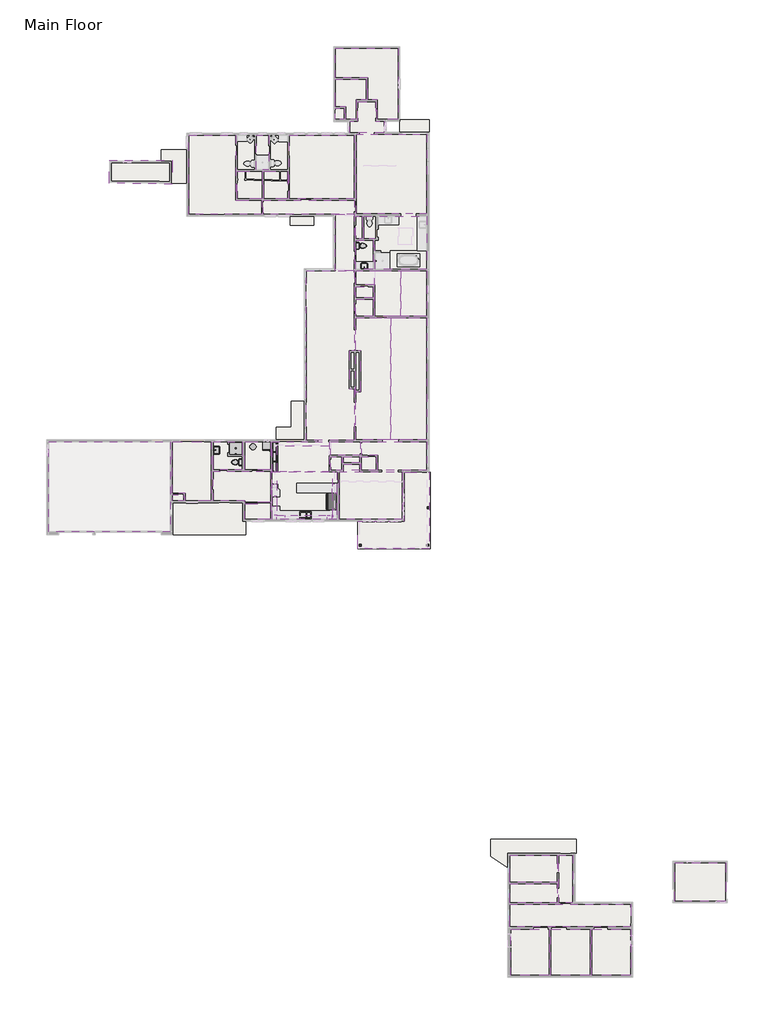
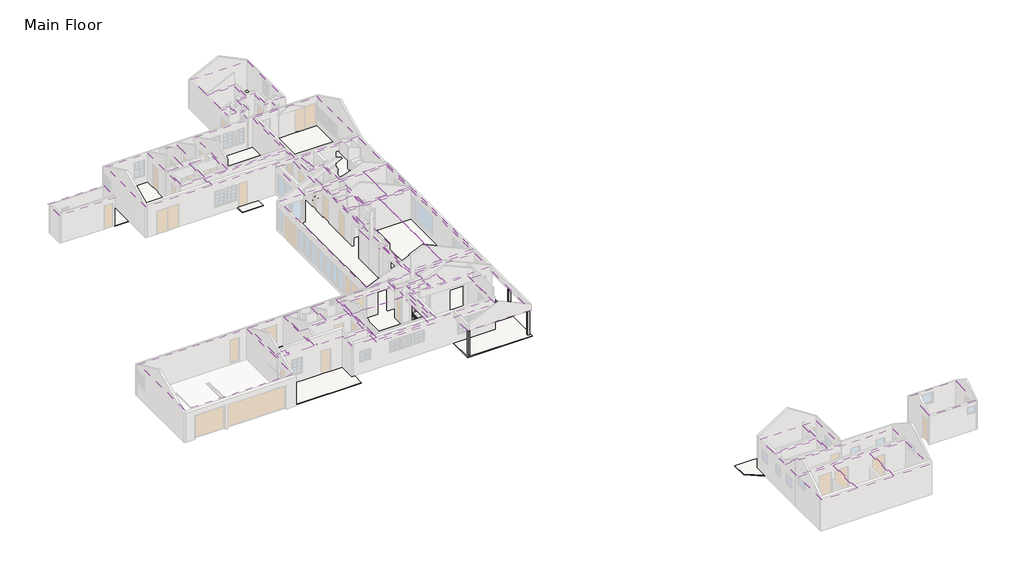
# One storey, part 6 of 7: 50 coverings, 13 slabs, 9 furniture elements, 8 flow terminals, 3 columns, 2 proxies, 1 roof.
"""IFC4 building model written with IfcOpenShell, lengths in millimetres."""

from ifc_helpers import new_model, si_unit, frame, origin, origin_with_axes, place, context, project, spatial, polyline, outline, extrude, faceted_brep, transform, mapped, element, save
from components import fridge_default_1_30e53153, wine_default_1_0e301ea7, bath_shower_basin_rectangular_default_1_36745686, bath_basin_do_not_use_500_x_440mm_e3a0a4a9, bath_basin_floor_default_1_27cbf9b9, default_1_8c387ca1, default_1_a9700879, toilet_default_1_5cb52bd4, toilet_default_1_183bbd19, furniture_839b1c73, furniture_a81f2656, furniture_4516e806, furniture_61d967b8, furniture_a372f8cd, furniture_c219662e, furniture_252459a3, furniture_43d7f59e

model = new_model("IFC4")

# Units and contexts
model_context = context("Model", 3, world=origin())
ifc_project = project(units=[si_unit("LENGTHUNIT", "METRE", prefix="MILLI")], contexts=[model_context])

# Site, building, storey
site = spatial("IfcSite", under=ifc_project)
building = spatial("IfcBuilding", under=site)
storey = spatial("IfcBuildingStorey", under=building, Name="Main Floor", Elevation=0.0)

# Proxies
placement = place(None, origin())
fridge_default_1_shape = fridge_default_1_30e53153(model_context)
element("IfcBuildingElementProxy", 1, Name="Fridge : Default 1", ObjectType="Fridge : Default 1", at=placement, inside=storey, context=model_context, shape_type="MappedRepresentation", body=[
    mapped(fridge_default_1_shape, transform((9748.6343008, -7890.2247068, 0.0), x_axis=(0.0, -1.0, 0.0), y_axis=(1.0, 0.0, 0.0), z_axis=(0.0, 0.0, 1.0))),
])
wine_default_1_shape = wine_default_1_0e301ea7(model_context)
element("IfcBuildingElementProxy", 2, Name="Wine : Default 1", ObjectType="Wine : Default 1", at=placement, inside=storey, context=model_context, shape_type="MappedRepresentation", body=[
    mapped(wine_default_1_shape, transform((4459.1343008, -3499.4247068, 0.0), x_axis=(1.0, 0.0, 0.0), y_axis=(0.0, 1.0, 0.0), z_axis=(0.0, 0.0, 1.0))),
])

# Columns
element("IfcColumn", 3, ObjectType="Rectangular Column : Default 1", at=placement, inside=storey, context=model_context, shape_type="SweptSolid", body=[
    extrude(outline(polyline([(11467.9093008, -11059.0997068), (11467.9093008, -11205.1497068), (11321.8593008, -11205.1497068), (11321.8593008, -11059.0997068), (11467.9093008, -11059.0997068)])), origin_with_axes(), (0.0, 0.0, 1.0), 2286.0),
])
element("IfcColumn", 4, ObjectType="Rectangular Column : Default 1", at=placement, inside=storey, context=model_context, shape_type="SweptSolid", body=[
    extrude(outline(polyline([(16446.3093008, -11046.3997068), (16446.3093008, -11192.4497068), (16300.2593008, -11192.4497068), (16300.2593008, -11046.3997068), (16446.3093008, -11046.3997068)])), origin_with_axes(), (0.0, 0.0, 1.0), 2286.0),
])
element("IfcColumn", 5, ObjectType="Rectangular Column : Default 1", at=placement, inside=storey, context=model_context, shape_type="SweptSolid", body=[
    extrude(outline(polyline([(16478.0268008, -8271.2084568), (16478.0268008, -8417.2584568), (16331.9768008, -8417.2584568), (16331.9768008, -8271.2084568), (16478.0268008, -8271.2084568)])), origin_with_axes(), (0.0, 0.0, 1.0), 2286.0),
])

# Coverings
element("IfcCovering", 6, ObjectType="2\"\" Open Ceiling", at=placement, inside=storey, context=model_context, shape_type="SweptSolid", body=[
    extrude(outline(polyline([(16316.1343008, 9187.8752932), (16316.1343008, 5803.3252932), (12442.6343008, 5803.3252932), (12442.6343008, 8127.4252932), (11051.9843008, 8127.4252932), (11051.9843008, 9187.8752932), (16316.1343008, 9187.8752932)])), frame((0.0, 0.0, 2565.4), z_axis=(0.0, 0.0, 1.0), x_axis=(1.0, 0.0, 0.0)), (0.0, 0.0, 1.0), 12.7),
])
element("IfcCovering", 7, ObjectType="2\"\" Open Ceiling", at=placement, inside=storey, context=model_context, shape_type="SweptSolid", body=[
    extrude(outline(polyline([(16316.1343008, 5689.0252932), (16316.1343008, -3315.2747068), (11051.9843008, -3315.2747068), (11051.9843008, 5689.0252932), (16316.1343008, 5689.0252932)])), frame((0.0, 0.0, 2565.4), z_axis=(0.0, 0.0, 1.0), x_axis=(1.0, 0.0, 0.0)), (0.0, 0.0, 1.0), 12.7),
])
element("IfcCovering", 8, ObjectType="2\"\" Open Ceiling", at=placement, inside=storey, context=model_context, shape_type="SweptSolid", body=[
    extrude(outline(polyline([(-2651.3156992, -3480.3747068), (-2651.3156992, -10135.1747068), (-11636.5656992, -10135.1747068), (-11636.5656992, -3480.3747068), (-2651.3156992, -3480.3747068)])), frame((0.0, 0.0, 2565.4), z_axis=(0.0, 0.0, 1.0), x_axis=(1.0, 0.0, 0.0)), (0.0, 0.0, 1.0), 12.7),
])
element("IfcCovering", 9, ObjectType="2\"\" Open Ceiling", at=placement, inside=storey, context=model_context, shape_type="SweptSolid", body=[
    extrude(outline(polyline([(11204.3843008, -11367.0747068), (11204.3843008, -9354.1247068), (14633.3843008, -9354.1247068), (14633.3843008, -5709.2247068), (16468.5343008, -5709.2247068), (16468.5343008, -11367.0747068), (11204.3843008, -11367.0747068)])), frame((0.0, 0.0, 2286.0), z_axis=(0.0, 0.0, 1.0), x_axis=(1.0, 0.0, 0.0)), (0.0, 0.0, 1.0), 12.7),
])
element("IfcCovering", 10, ObjectType="2\"\" Open Ceiling", at=placement, inside=storey, context=model_context, shape_type="SweptSolid", body=[
    extrude(outline(polyline([(38407.712334, -34575.5881179), (38407.712334, -37426.7381179), (34629.462334, -37426.7381179), (34629.462334, -34575.5881179), (38407.712334, -34575.5881179)])), frame((0.0, 0.0, 2438.4), z_axis=(0.0, 0.0, 1.0), x_axis=(1.0, 0.0, 0.0)), (0.0, 0.0, 1.0), 12.7),
])
element("IfcCovering", 11, ObjectType="2\"\" Open Ceiling", at=placement, inside=storey, context=model_context, shape_type="SweptSolid", body=[
    extrude(outline(polyline([(25340.0877703, -42915.6175931), (22495.2877703, -42915.6175931), (22495.2877703, -39486.6175931), (25340.0877703, -39486.6175931), (25340.0877703, -42915.6175931)])), frame((0.0, 0.0, 2565.4), z_axis=(0.0, 0.0, 1.0), x_axis=(1.0, 0.0, 0.0)), (0.0, 0.0, 1.0), 12.7),
])
element("IfcCovering", 12, ObjectType="2\"\" Open Ceiling", at=placement, inside=storey, context=model_context, shape_type="SweptSolid", body=[
    extrude(outline(polyline([(28394.4377703, -42915.6175931), (25454.3877703, -42915.6175931), (25454.3877703, -39486.6175931), (28394.4377703, -39486.6175931), (28394.4377703, -42915.6175931)])), frame((0.0, 0.0, 2565.4), z_axis=(0.0, 0.0, 1.0), x_axis=(1.0, 0.0, 0.0)), (0.0, 0.0, 1.0), 12.7),
])
element("IfcCovering", 13, ObjectType="2\"\" Open Ceiling", at=placement, inside=storey, context=model_context, shape_type="SweptSolid", body=[
    extrude(outline(polyline([(31391.6377703, -42915.6175931), (28508.7377703, -42915.6175931), (28508.7377703, -39486.6175931), (31391.6377703, -39486.6175931), (31391.6377703, -42915.6175931)])), frame((0.0, 0.0, 2565.4), z_axis=(0.0, 0.0, 1.0), x_axis=(1.0, 0.0, 0.0)), (0.0, 0.0, 1.0), 12.7),
])
element("IfcCovering", 14, ObjectType="2\"\" Open Ceiling", at=placement, inside=storey, context=model_context, shape_type="SweptSolid", body=[
    extrude(outline(polyline([(31391.6377703, -39321.5175931), (22444.4877703, -39321.5175931), (22444.4877703, -37657.8175931), (31391.6377703, -37657.8175931), (31391.6377703, -39321.5175931)])), frame((0.0, 0.0, 2565.4), z_axis=(0.0, 0.0, 1.0), x_axis=(1.0, 0.0, 0.0)), (0.0, 0.0, 1.0), 12.7),
])
element("IfcCovering", 15, ObjectType="2\"\" Open Ceiling", at=placement, inside=storey, context=model_context, shape_type="SweptSolid", body=[
    extrude(outline(polyline([(25962.3877703, -37543.5175931), (22444.4877703, -37543.5175931), (22444.4877703, -36127.4675931), (25962.3877703, -36127.4675931), (25962.3877703, -37543.5175931)])), frame((0.0, 0.0, 2565.4), z_axis=(0.0, 0.0, 1.0), x_axis=(1.0, 0.0, 0.0)), (0.0, 0.0, 1.0), 12.7),
])
element("IfcCovering", 16, ObjectType="2\"\" Open Ceiling", at=placement, inside=storey, context=model_context, shape_type="SweptSolid", body=[
    extrude(outline(polyline([(25962.3877703, -36013.1675931), (22444.4877703, -36013.1675931), (22444.4877703, -34038.3175931), (25962.3877703, -34038.3175931), (25962.3877703, -36013.1675931)])), frame((0.0, 0.0, 2565.4), z_axis=(0.0, 0.0, 1.0), x_axis=(1.0, 0.0, 0.0)), (0.0, 0.0, 1.0), 12.7),
])
element("IfcCovering", 17, ObjectType="2\"\" Open Ceiling", at=placement, inside=storey, context=model_context, shape_type="SweptSolid", body=[
    extrude(outline(polyline([(27111.7377703, -37543.5175931), (26076.6877703, -37543.5175931), (26076.6877703, -34038.3175931), (27111.7377703, -34038.3175931), (27111.7377703, -37543.5175931)])), frame((0.0, 0.0, 2565.4), z_axis=(0.0, 0.0, 1.0), x_axis=(1.0, 0.0, 0.0)), (0.0, 0.0, 1.0), 12.7),
])
element("IfcCovering", 18, ObjectType="2\"\" Open Ceiling", at=placement, inside=storey, context=model_context, shape_type="Brep", body=[
    faceted_brep([(16316.1343008, 5803.3252932, 2756.9094656), (16316.1343008, 9187.8752932, 2756.9094656), (14379.3843008, 9187.8752932, 3544.3094656), (14379.3843008, 5803.3252932, 3544.3094656), (15900.9505193, 8456.7752932, 2925.7054948), (15900.9505193, 7542.3752932, 2925.7054948), (14859.6110471, 7542.3752932, 3349.0697392), (14859.6110471, 8456.7752932, 3349.0697392), (16316.1343008, 5803.3252932, 2743.2), (14379.3843008, 5803.3252932, 3530.6), (14379.3843008, 9187.8752932, 3530.6), (16316.1343008, 9187.8752932, 2743.2), (15900.9505193, 8456.7752932, 2911.9960292), (14859.6110471, 8456.7752932, 3335.3602736), (14859.6110471, 7542.3752932, 3335.3602736), (15900.9505193, 7542.3752932, 2911.9960292)], [[[0, 1, 2, 3], [4, 5, 6, 7]], [[8, 9, 10, 11], [12, 13, 14, 15]], [[1, 0, 8, 11]], [[2, 1, 11, 10]], [[3, 2, 10, 9]], [[0, 3, 9, 8]], [[5, 4, 12, 15]], [[6, 5, 15, 14]], [[7, 6, 14, 13]], [[4, 7, 13, 12]]]),
])
element("IfcCovering", 19, ObjectType="2\"\" Open Ceiling", at=placement, inside=storey, context=model_context, shape_type="SweptSolid", body=[
    extrude(outline(polyline([(2833.0605924, 16316.1343008), (3899.8605924, 13623.7343008), (3886.2, 13623.7343008), (2819.4, 16316.1343008), (2833.0605924, 16316.1343008)])), frame((0.0, -3315.2747068, 0.0), z_axis=(0.0, 1.0, 0.0), x_axis=(0.0, 0.0, 1.0)), (0.0, 0.0, 1.0), 9004.3),
])
element("IfcCovering", 20, ObjectType="2\"\" Open Ceiling", at=placement, inside=storey, context=model_context, shape_type="Brep", body=[
    faceted_brep([(13623.7343008, 5689.0252932, 3899.9970422), (11051.9843008, 5689.0252932, 2808.2163818), (11051.9843008, 3250.6252932, 2808.2163818), (11426.6343008, 3250.6252932, 2967.2659101), (11426.6343008, 247.0752932, 2967.2659101), (11051.9843008, 247.0752932, 2808.2163818), (11051.9843008, -3315.2747068, 2808.2163818), (13623.7343008, -3315.2747068, 3899.9970422), (13623.7343008, 5689.0252932, 3886.2), (13623.7343008, -3315.2747068, 3886.2), (11051.9843008, -3315.2747068, 2794.4193396), (11051.9843008, 247.0752932, 2794.4193396), (11426.6343008, 247.0752932, 2953.4688679), (11426.6343008, 3250.6252932, 2953.4688679), (11051.9843008, 3250.6252932, 2794.4193396), (11051.9843008, 5689.0252932, 2794.4193396)], [[[0, 1, 2, 3, 4, 5, 6, 7]], [[8, 9, 10, 11, 12, 13, 14, 15]], [[0, 7, 9, 8]], [[7, 6, 10, 9]], [[6, 5, 11, 10]], [[1, 0, 8, 15]], [[2, 1, 15, 14]], [[3, 2, 14, 13]], [[4, 3, 13, 12]], [[5, 4, 12, 11]]]),
])
element("IfcCovering", 21, ObjectType="2\"\" Open Ceiling", at=placement, inside=storey, context=model_context, shape_type="SweptSolid", body=[
    extrude(outline(polyline([(3544.3094656, 14379.3843008), (2756.9094656, 12442.6343008), (2743.2, 12442.6343008), (3530.6, 14379.3843008), (3544.3094656, 14379.3843008)])), frame((0.0, 5803.3252932, 0.0), z_axis=(0.0, 1.0, 0.0), x_axis=(0.0, 0.0, 1.0)), (0.0, 0.0, 1.0), 3384.55),
])
element("IfcCovering", 22, ObjectType="1/2\" Ceiling", at=placement, inside=storey, context=model_context, shape_type="SweptSolid", body=[
    extrude(outline(polyline([(-1298.7656992, 19214.5252932), (2187.3843008, 19214.5252932), (2187.3843008, 14401.2252932), (4098.7343008, 14401.2252932), (4098.7343008, 13359.8252932), (-1298.7656992, 13359.8252932), (-1298.7656992, 19214.5252932)])), frame((0.0, 0.0, 2565.4), z_axis=(0.0, 0.0, 1.0), x_axis=(1.0, 0.0, 0.0)), (0.0, 0.0, 1.0), 12.7),
])
element("IfcCovering", 23, ObjectType="1/2\" Ceiling", at=placement, inside=storey, context=model_context, shape_type="SweptSolid", body=[
    extrude(outline(polyline([(6149.7843008, 19214.5252932), (10937.6843008, 19214.5252932), (10937.6843008, 14515.5252932), (6149.7843008, 14515.5252932), (6149.7843008, 19214.5252932)])), frame((0.0, 0.0, 2565.4), z_axis=(0.0, 0.0, 1.0), x_axis=(1.0, 0.0, 0.0)), (0.0, 0.0, 1.0), 12.7),
])
element("IfcCovering", 24, ObjectType="1/2\" Ceiling", at=placement, inside=storey, context=model_context, shape_type="SweptSolid", body=[
    extrude(outline(polyline([(4130.4843008, 16528.4752932), (4130.4843008, 14515.5252932), (2301.6843008, 14515.5252932), (2301.6843008, 16528.4752932), (4130.4843008, 16528.4752932)])), frame((0.0, 0.0, 2565.4), z_axis=(0.0, 0.0, 1.0), x_axis=(1.0, 0.0, 0.0)), (0.0, 0.0, 1.0), 12.7),
])
element("IfcCovering", 25, ObjectType="1/2\" Ceiling", at=placement, inside=storey, context=model_context, shape_type="SweptSolid", body=[
    extrude(outline(polyline([(6035.4843008, 16528.4752932), (6035.4843008, 14515.5252932), (4244.7843008, 14515.5252932), (4244.7843008, 16528.4752932), (6035.4843008, 16528.4752932)])), frame((0.0, 0.0, 2565.4), z_axis=(0.0, 0.0, 1.0), x_axis=(1.0, 0.0, 0.0)), (0.0, 0.0, 1.0), 12.7),
])
element("IfcCovering", 26, ObjectType="1/2\" Ceiling", at=placement, inside=storey, context=model_context, shape_type="SweptSolid", body=[
    extrude(outline(polyline([(4632.1343008, 19214.5252932), (4632.1343008, 16642.7752932), (3685.9843008, 16642.7752932), (3685.9843008, 19214.5252932), (4632.1343008, 19214.5252932)])), frame((0.0, 0.0, 2438.4), z_axis=(0.0, 0.0, 1.0), x_axis=(1.0, 0.0, 0.0)), (0.0, 0.0, 1.0), 12.7),
])
element("IfcCovering", 27, ObjectType="1/2\" Ceiling", at=placement, inside=storey, context=model_context, shape_type="SweptSolid", body=[
    extrude(outline(polyline([(10937.6843008, 14401.2252932), (10937.6843008, 13359.8252932), (4213.0343008, 13359.8252932), (4213.0343008, 14401.2252932), (10937.6843008, 14401.2252932)])), frame((0.0, 0.0, 2565.4), z_axis=(0.0, 0.0, 1.0), x_axis=(1.0, 0.0, 0.0)), (0.0, 0.0, 1.0), 12.7),
])
element("IfcCovering", 28, ObjectType="1/2\" Ceiling", at=placement, inside=storey, context=model_context, shape_type="SweptSolid", body=[
    extrude(outline(polyline([(16316.1343008, 19252.6252932), (16316.1343008, 13378.8752932), (11102.7843008, 13378.8752932), (11102.7843008, 19252.6252932), (16316.1343008, 19252.6252932)])), frame((0.0, 0.0, 2565.4), z_axis=(0.0, 0.0, 1.0), x_axis=(1.0, 0.0, 0.0)), (0.0, 0.0, 1.0), 12.7),
])
element("IfcCovering", 29, ObjectType="1/2\" Ceiling", at=placement, inside=storey, context=model_context, shape_type="SweptSolid", body=[
    extrude(outline(polyline([(10601.1343008, 20249.5752932), (11210.7343008, 20249.5752932), (11210.7343008, 21691.0252932), (12531.5343008, 21691.0252932), (12531.5343008, 20249.5752932), (13141.1343008, 20249.5752932), (13141.1343008, 19366.9252932), (10601.1343008, 19366.9252932), (10601.1343008, 20249.5752932)])), frame((0.0, 0.0, 2565.4), z_axis=(0.0, 0.0, 1.0), x_axis=(1.0, 0.0, 0.0)), (0.0, 0.0, 1.0), 12.7),
])
element("IfcCovering", 30, ObjectType="1/2\" Ceiling", at=placement, inside=storey, context=model_context, shape_type="SweptSolid", body=[
    extrude(outline(polyline([(9534.3343008, 23348.3752932), (11813.9843008, 23348.3752932), (11813.9843008, 21805.3252932), (11096.4343008, 21805.3252932), (11096.4343008, 20363.8752932), (10302.6843008, 20363.8752932), (10302.6843008, 21310.0252932), (9534.3343008, 21310.0252932), (9534.3343008, 23348.3752932)])), frame((0.0, 0.0, 2565.4), z_axis=(0.0, 0.0, 1.0), x_axis=(1.0, 0.0, 0.0)), (0.0, 0.0, 1.0), 12.7),
])
element("IfcCovering", 31, ObjectType="1/2\" Ceiling", at=placement, inside=storey, context=model_context, shape_type="SweptSolid", body=[
    extrude(outline(polyline([(10188.3843008, 21195.7252932), (10188.3843008, 20363.8752932), (9534.3343008, 20363.8752932), (9534.3343008, 21195.7252932), (10188.3843008, 21195.7252932)])), frame((0.0, 0.0, 2565.4), z_axis=(0.0, 0.0, 1.0), x_axis=(1.0, 0.0, 0.0)), (0.0, 0.0, 1.0), 12.7),
])
element("IfcCovering", 32, ObjectType="1/2\" Ceiling", at=placement, inside=storey, context=model_context, shape_type="SweptSolid", body=[
    extrude(outline(polyline([(14201.5843008, 20363.8752932), (12645.8343008, 20363.8752932), (12645.8343008, 21805.3252932), (11928.2843008, 21805.3252932), (11928.2843008, 23462.6752932), (9534.3343008, 23462.6752932), (9534.3343008, 25640.7252932), (14201.5843008, 25640.7252932), (14201.5843008, 20363.8752932)])), frame((0.0, 0.0, 2565.4), z_axis=(0.0, 0.0, 1.0), x_axis=(1.0, 0.0, 0.0)), (0.0, 0.0, 1.0), 12.7),
])
element("IfcCovering", 33, ObjectType="1/2\" Ceiling", at=placement, inside=storey, context=model_context, shape_type="SweptSolid", body=[
    extrude(outline(polyline([(11534.5843008, 13213.7752932), (11534.5843008, 11562.7752932), (11051.9843008, 11562.7752932), (11051.9843008, 13213.7752932), (11534.5843008, 13213.7752932)])), frame((0.0, 0.0, 2565.4), z_axis=(0.0, 0.0, 1.0), x_axis=(1.0, 0.0, 0.0)), (0.0, 0.0, 1.0), 12.7),
])
element("IfcCovering", 34, ObjectType="1/2\" Ceiling", at=placement, inside=storey, context=model_context, shape_type="SweptSolid", body=[
    extrude(outline(polyline([(12328.3343008, 11448.4752932), (12328.3343008, 9302.1752932), (11051.9843008, 9302.1752932), (11051.9843008, 11448.4752932), (12328.3343008, 11448.4752932)])), frame((0.0, 0.0, 2565.4), z_axis=(0.0, 0.0, 1.0), x_axis=(1.0, 0.0, 0.0)), (0.0, 0.0, 1.0), 12.7),
])
element("IfcCovering", 35, ObjectType="1/2\" Ceiling", at=placement, inside=storey, context=model_context, shape_type="SweptSolid", body=[
    extrude(outline(polyline([(11648.8843008, 11562.7752932), (11648.8843008, 13213.7752932), (16316.1343008, 13213.7752932), (16316.1343008, 9302.1752932), (12493.4343008, 9302.1752932), (12493.4343008, 10673.7752932), (12442.6343008, 10673.7752932), (12442.6343008, 11562.7752932), (11648.8843008, 11562.7752932)]), holes=[polyline([(15204.7975461, 12324.7752932), (14243.1168228, 12324.7752932), (14243.1168228, 11156.3752932), (15204.7975461, 11156.3752932), (15204.7975461, 12324.7752932)])]), frame((0.0, 0.0, 2590.8), z_axis=(0.0, 0.0, 1.0), x_axis=(1.0, 0.0, 0.0)), (0.0, 0.0, 1.0), 12.7),
])
element("IfcCovering", 36, ObjectType="1/2\" Ceiling", at=placement, inside=storey, context=model_context, shape_type="SweptSolid", body=[
    extrude(outline(polyline([(12328.3343008, 7174.9252932), (11051.9843008, 7174.9252932), (11051.9843008, 8013.1252932), (12328.3343008, 8013.1252932), (12328.3343008, 7174.9252932)])), frame((0.0, 0.0, 2565.4), z_axis=(0.0, 0.0, 1.0), x_axis=(1.0, 0.0, 0.0)), (0.0, 0.0, 1.0), 12.7),
])
element("IfcCovering", 37, ObjectType="1/2\" Ceiling", at=placement, inside=storey, context=model_context, shape_type="SweptSolid", body=[
    extrude(outline(polyline([(12328.3343008, 7060.6252932), (12328.3343008, 5803.3252932), (11051.9843008, 5803.3252932), (11051.9843008, 7060.6252932), (12328.3343008, 7060.6252932)])), frame((0.0, 0.0, 2565.4), z_axis=(0.0, 0.0, 1.0), x_axis=(1.0, 0.0, 0.0)), (0.0, 0.0, 1.0), 12.7),
])
element("IfcCovering", 38, ObjectType="1/2\" Ceiling", at=placement, inside=storey, context=model_context, shape_type="SweptSolid", body=[
    extrude(outline(polyline([(11490.1343008, -3480.3747068), (16316.1343008, -3480.3747068), (16316.1343008, -5556.8247068), (12696.6343008, -5556.8247068), (12696.6343008, -4451.9247068), (11490.1343008, -4451.9247068), (11490.1343008, -3480.3747068)])), frame((0.0, 0.0, 2565.4), z_axis=(0.0, 0.0, 1.0), x_axis=(1.0, 0.0, 0.0)), (0.0, 0.0, 1.0), 12.7),
])
element("IfcCovering", 39, ObjectType="1/2\" Ceiling", at=placement, inside=storey, context=model_context, shape_type="SweptSolid", body=[
    extrude(outline(polyline([(11375.8343008, -4451.9247068), (9210.4843008, -4451.9247068), (9210.4843008, -3480.3747068), (11375.8343008, -3480.3747068), (11375.8343008, -4451.9247068)])), frame((0.0, 0.0, 2565.4), z_axis=(0.0, 0.0, 1.0), x_axis=(1.0, 0.0, 0.0)), (0.0, 0.0, 1.0), 12.7),
])
element("IfcCovering", 40, ObjectType="1/2\" Ceiling", at=placement, inside=storey, context=model_context, shape_type="SweptSolid", body=[
    extrude(outline(polyline([(10010.5843008, -5556.8247068), (9210.4843008, -5556.8247068), (9210.4843008, -4566.2247068), (10010.5843008, -4566.2247068), (10010.5843008, -5556.8247068)])), frame((0.0, 0.0, 2565.4), z_axis=(0.0, 0.0, 1.0), x_axis=(1.0, 0.0, 0.0)), (0.0, 0.0, 1.0), 12.7),
])
element("IfcCovering", 41, ObjectType="1/2\" Ceiling", at=placement, inside=storey, context=model_context, shape_type="SweptSolid", body=[
    extrude(outline(polyline([(11356.7843008, -5023.4247068), (10124.8843008, -5023.4247068), (10124.8843008, -4566.2247068), (11356.7843008, -4566.2247068), (11356.7843008, -5023.4247068)])), frame((0.0, 0.0, 2565.4), z_axis=(0.0, 0.0, 1.0), x_axis=(1.0, 0.0, 0.0)), (0.0, 0.0, 1.0), 12.7),
])
element("IfcCovering", 42, ObjectType="1/2\" Ceiling", at=placement, inside=storey, context=model_context, shape_type="SweptSolid", body=[
    extrude(outline(polyline([(11356.7843008, -5556.8247068), (10124.8843008, -5556.8247068), (10124.8843008, -5137.7247068), (11356.7843008, -5137.7247068), (11356.7843008, -5556.8247068)])), frame((0.0, 0.0, 2565.4), z_axis=(0.0, 0.0, 1.0), x_axis=(1.0, 0.0, 0.0)), (0.0, 0.0, 1.0), 12.7),
])
element("IfcCovering", 43, ObjectType="1/2\" Ceiling", at=placement, inside=storey, context=model_context, shape_type="SweptSolid", body=[
    extrude(outline(polyline([(12582.3343008, -5556.8247068), (11471.0843008, -5556.8247068), (11471.0843008, -4566.2247068), (12582.3343008, -4566.2247068), (12582.3343008, -5556.8247068)])), frame((0.0, 0.0, 2565.4), z_axis=(0.0, 0.0, 1.0), x_axis=(1.0, 0.0, 0.0)), (0.0, 0.0, 1.0), 12.7),
])
element("IfcCovering", 44, ObjectType="1/2\" Ceiling", at=placement, inside=storey, context=model_context, shape_type="SweptSolid", body=[
    extrude(outline(polyline([(14480.9843008, -9201.7247068), (9813.7343008, -9201.7247068), (9813.7343008, -5671.1247068), (14480.9843008, -5671.1247068), (14480.9843008, -9201.7247068)])), frame((0.0, 0.0, 2565.4), z_axis=(0.0, 0.0, 1.0), x_axis=(1.0, 0.0, 0.0)), (0.0, 0.0, 1.0), 12.7),
])
element("IfcCovering", 45, ObjectType="1/2\" Ceiling", at=placement, inside=storey, context=model_context, shape_type="SweptSolid", body=[
    extrude(outline(polyline([(4778.1843008, -5531.4247068), (2828.7343008, -5531.4247068), (2828.7343008, -3480.3747068), (4778.1843008, -3480.3747068), (4778.1843008, -5531.4247068)])), frame((0.0, 0.0, 2565.4), z_axis=(0.0, 0.0, 1.0), x_axis=(1.0, 0.0, 0.0)), (0.0, 0.0, 1.0), 12.7),
])
element("IfcCovering", 46, ObjectType="1/2\" Ceiling", at=placement, inside=storey, context=model_context, shape_type="SweptSolid", body=[
    extrude(outline(polyline([(4778.1843008, -8033.3247068), (4778.1843008, -9201.7247068), (2847.7843008, -9201.7247068), (2847.7843008, -8033.3247068), (4778.1843008, -8033.3247068)])), frame((0.0, 0.0, 2565.4), z_axis=(0.0, 0.0, 1.0), x_axis=(1.0, 0.0, 0.0)), (0.0, 0.0, 1.0), 12.7),
])
element("IfcCovering", 47, ObjectType="1/2\" Ceiling", at=placement, inside=storey, context=model_context, shape_type="SweptSolid", body=[
    extrude(outline(polyline([(498.2843008, -5645.7247068), (4778.1843008, -5645.7247068), (4778.1843008, -7919.0247068), (2847.7843008, -7919.0247068), (2847.7843008, -7823.7747068), (498.2843008, -7823.7747068), (498.2843008, -5645.7247068)])), frame((0.0, 0.0, 2565.4), z_axis=(0.0, 0.0, 1.0), x_axis=(1.0, 0.0, 0.0)), (0.0, 0.0, 1.0), 12.7),
])
element("IfcCovering", 48, ObjectType="1/2\" Ceiling", at=placement, inside=storey, context=model_context, shape_type="SweptSolid", body=[
    extrude(outline(polyline([(2663.6343008, -3480.3747068), (2663.6343008, -5531.4247068), (498.2843008, -5531.4247068), (498.2843008, -3480.3747068), (2663.6343008, -3480.3747068)])), frame((0.0, 0.0, 2565.4), z_axis=(0.0, 0.0, 1.0), x_axis=(1.0, 0.0, 0.0)), (0.0, 0.0, 1.0), 12.7),
])
element("IfcCovering", 49, ObjectType="1/2\" Ceiling", at=placement, inside=storey, context=model_context, shape_type="SweptSolid", body=[
    extrude(outline(polyline([(-1667.0656992, -7372.9247068), (-1667.0656992, -7823.7747068), (-2498.9156992, -7823.7747068), (-2498.9156992, -7372.9247068), (-1667.0656992, -7372.9247068)])), frame((0.0, 0.0, 2565.4), z_axis=(0.0, 0.0, 1.0), x_axis=(1.0, 0.0, 0.0)), (0.0, 0.0, 1.0), 12.7),
])
element("IfcCovering", 50, ObjectType="1/2\" Ceiling", at=placement, inside=storey, context=model_context, shape_type="SweptSolid", body=[
    extrude(outline(polyline([(-2498.9156992, -3480.3747068), (383.9843008, -3480.3747068), (383.9843008, -7823.7747068), (-1552.7656992, -7823.7747068), (-1552.7656992, -7258.6247068), (-2498.9156992, -7258.6247068), (-2498.9156992, -3480.3747068)])), frame((0.0, 0.0, 2565.4), z_axis=(0.0, 0.0, 1.0), x_axis=(1.0, 0.0, 0.0)), (0.0, 0.0, 1.0), 12.7),
])
element("IfcCovering", 51, ObjectType="1/2\" Ceiling", at=placement, inside=storey, context=model_context, shape_type="SweptSolid", body=[
    extrude(outline(polyline([(5197.2843008, -8896.9247068), (9343.8343008, -8896.9247068), (9343.8343008, -5671.1247068), (9648.6343008, -5671.1247068), (9648.6343008, -9201.7247068), (4892.4843008, -9201.7247068), (4892.4843008, -3480.3747068), (9096.1843008, -3480.3747068), (9096.1843008, -3785.1747068), (5197.2843008, -3785.1747068), (5197.2843008, -8896.9247068)])), frame((0.0, 0.0, 2184.4), z_axis=(0.0, 0.0, 1.0), x_axis=(1.0, 0.0, 0.0)), (0.0, 0.0, 1.0), 12.7),
])
element("IfcCovering", 52, ObjectType="1/2\" Ceiling", at=placement, inside=storey, context=model_context, shape_type="SweptSolid", body=[
    extrude(outline(polyline([(10937.6843008, 13359.8252932), (10937.6843008, 9187.8752932), (9547.0343008, 9187.8752932), (9547.0343008, 13359.8252932), (10937.6843008, 13359.8252932)])), frame((0.0, 0.0, 2311.4), z_axis=(0.0, 0.0, 1.0), x_axis=(1.0, 0.0, 0.0)), (0.0, 0.0, 1.0), 12.7),
])
element("IfcCovering", 53, ObjectType="1/2\" Ceiling", at=placement, inside=storey, context=model_context, shape_type="SweptSolid", body=[
    extrude(outline(polyline([(10937.6843008, 9187.8752932), (10937.6843008, 3250.6252932), (10575.7343008, 3250.6252932), (10575.7343008, 469.3252932), (10937.6843008, 469.3252932), (10937.6843008, -3366.0747068), (7394.3843008, -3366.0747068), (7394.3843008, 9187.8752932), (10937.6843008, 9187.8752932)])), frame((0.0, 0.0, 2565.4), z_axis=(0.0, 0.0, 1.0), x_axis=(1.0, 0.0, 0.0)), (0.0, 0.0, 1.0), 12.7),
])
element("IfcCovering", 54, ObjectType="1/2\" Ceiling", at=placement, inside=storey, context=model_context, shape_type="SweptSolid", body=[
    extrude(outline(polyline([(9096.1843008, -3480.3747068), (9096.1843008, -5671.1247068), (4892.4843008, -5671.1247068), (4892.4843008, -3480.3747068), (9096.1843008, -3480.3747068)])), frame((0.0, 0.0, 2565.4), z_axis=(0.0, 0.0, 1.0), x_axis=(1.0, 0.0, 0.0)), (0.0, 0.0, 1.0), 12.7),
])
element("IfcCovering", 55, ObjectType="1/2\" Ceiling", at=placement, inside=storey, context=model_context, shape_type="SweptSolid", body=[
    extrude(outline(polyline([(9648.6343008, -5671.1247068), (9648.6343008, -9201.7247068), (4892.4843008, -9201.7247068), (4892.4843008, -5671.1247068), (9648.6343008, -5671.1247068)])), frame((0.0, 0.0, 2565.4), z_axis=(0.0, 0.0, 1.0), x_axis=(1.0, 0.0, 0.0)), (0.0, 0.0, 1.0), 12.7),
])

# Flow terminals
bath_shower_basin_rectangular_default_1_shape = bath_shower_basin_rectangular_default_1_36745686(model_context)
element("IfcFlowTerminal", 56, ObjectType="Bath- Shower - Basin Rectangular : Default 1", at=placement, inside=storey, context=model_context, shape_type="MappedRepresentation", body=[
    mapped(bath_shower_basin_rectangular_default_1_shape, transform((2181.0343008, -3943.9247068, 0.0), x_axis=(1.0, 0.0, 0.0), y_axis=(0.0, 1.0, 0.0), z_axis=(0.0, 0.0, 1.0))),
])
bath_basin_do_not_use_500_x_440mm_shape = bath_basin_do_not_use_500_x_440mm_e3a0a4a9(model_context)
element("IfcFlowTerminal", 57, ObjectType="Bath-Basin DO NOT USE : 500 x 440mm", at=placement, inside=storey, context=model_context, shape_type="MappedRepresentation", body=[
    mapped(bath_basin_do_not_use_500_x_440mm_shape, transform((11692.3235412, 9482.3206943, 152.4), x_axis=(-1.0, 0.0, 0.0), y_axis=(0.0, -1.0, 0.0), z_axis=(0.0, 0.0, 1.0))),
])
bath_basin_floor_default_1_shape = bath_basin_floor_default_1_27cbf9b9(model_context)
element("IfcFlowTerminal", 58, ObjectType="Bath-Basin Floor : Default 1", at=placement, inside=storey, context=model_context, shape_type="MappedRepresentation", body=[
    mapped(bath_basin_floor_default_1_shape, transform((678.4297019, -4099.3139474, 0.0), x_axis=(0.0, 1.0, 0.0), y_axis=(-1.0, 0.0, 0.0), z_axis=(0.0, 0.0, 1.0))),
])
default_1_shape = default_1_8c387ca1(model_context)
element("IfcFlowTerminal", 59, ObjectType="2D Kitcken-Sink Double Half : Default 1", at=placement, inside=storey, context=model_context, shape_type="MappedRepresentation", body=[
    mapped(default_1_shape, transform((7403.1550602, -8919.9793057, 152.4), x_axis=(1.0, 0.0, 0.0), y_axis=(0.0, 1.0, 0.0), z_axis=(0.0, 0.0, 1.0))),
])
default_1_2_shape = default_1_a9700879(model_context)
element("IfcFlowTerminal", 60, ObjectType="Bath-Showerhead : Default 1", at=placement, inside=storey, context=model_context, shape_type="MappedRepresentation", body=[
    mapped(default_1_2_shape, transform((12493.4343008, 9905.4252932, 0.0), x_axis=(0.0, 1.0, 0.0), y_axis=(-1.0, 0.0, 0.0), z_axis=(0.0, 0.0, 1.0))),
])
element("IfcFlowTerminal", 61, ObjectType="Bath-Showerhead : Default 1", at=placement, inside=storey, context=model_context, shape_type="MappedRepresentation", body=[
    mapped(default_1_2_shape, transform((2181.0343008, -4407.4747068, 0.0), x_axis=(-1.0, 0.0, 0.0), y_axis=(0.0, -1.0, 0.0), z_axis=(0.0, 0.0, 1.0))),
])
toilet_default_1_shape = toilet_default_1_5cb52bd4(model_context)
toilet_default_1_2_shape = toilet_default_1_183bbd19(model_context)
element("IfcFlowTerminal", 62, ObjectType="Toilet : Default 1", at=placement, inside=storey, context=model_context, shape_type="MappedRepresentation", body=[
    mapped(toilet_default_1_shape, transform((2169.2882734, -4978.9247068, 0.0), x_axis=(0.0, -1.0, 0.0), y_axis=(1.0, 0.0, 0.0), z_axis=(0.0, 0.0, 1.0))),
    mapped(toilet_default_1_2_shape, transform((2169.2882734, -4978.9247068, 0.0), x_axis=(0.0, -1.0, 0.0), y_axis=(1.0, 0.0, 0.0), z_axis=(0.0, 0.0, 1.0))),
])
element("IfcFlowTerminal", 63, ObjectType="Toilet : Default 1", at=placement, inside=storey, context=model_context, shape_type="MappedRepresentation", body=[
    mapped(toilet_default_1_shape, transform((11546.3803281, 11019.6752932, 0.0), x_axis=(0.0, 1.0, 0.0), y_axis=(-1.0, 0.0, 0.0), z_axis=(0.0, 0.0, 1.0))),
    mapped(toilet_default_1_2_shape, transform((11546.3803281, 11019.6752932, 0.0), x_axis=(0.0, 1.0, 0.0), y_axis=(-1.0, 0.0, 0.0), z_axis=(0.0, 0.0, 1.0))),
])

# Furniture
furniture_shape = furniture_839b1c73(model_context)
element("IfcFurniture", 64, ObjectType="Upper Cabinet-Single Door-Wall : 15\"", at=placement, inside=storey, context=model_context, shape_type="MappedRepresentation", body=[
    mapped(furniture_shape, transform((9085.463138, -9277.9247068, 50.8), x_axis=(1.0, 0.0, 0.0), y_axis=(0.0, 1.0, 0.0), z_axis=(0.0, 0.0, 1.0))),
])
furniture_2_shape = furniture_a81f2656(model_context)
element("IfcFurniture", 65, ObjectType="Upper Cabinet-Single Door-Wall : 24\"", at=placement, inside=storey, context=model_context, shape_type="MappedRepresentation", body=[
    mapped(furniture_2_shape, transform((4835.3343008, -7241.553544, 50.8), x_axis=(0.0, -1.0, 0.0), y_axis=(1.0, 0.0, 0.0), z_axis=(0.0, 0.0, 1.0))),
])
furniture_3_shape = furniture_4516e806(model_context)
element("IfcFurniture", 66, ObjectType="Upper Cabinet-Single Door-Wall : 24\"", at=placement, inside=storey, context=model_context, shape_type="MappedRepresentation", body=[
    mapped(furniture_3_shape, transform((4835.3343008, -8638.553544, 50.8), x_axis=(0.0, -1.0, 0.0), y_axis=(1.0, 0.0, 0.0), z_axis=(0.0, 0.0, 1.0))),
])
furniture_4_shape = furniture_61d967b8(model_context)
element("IfcFurniture", 67, ObjectType="Upper Cabinet-Single Door-Wall : 24\"", at=placement, inside=storey, context=model_context, shape_type="MappedRepresentation", body=[
    mapped(furniture_4_shape, transform((5548.513138, -9277.9247068, 50.8), x_axis=(1.0, 0.0, 0.0), y_axis=(0.0, 1.0, 0.0), z_axis=(0.0, 0.0, 1.0))),
])
furniture_5_shape = furniture_a372f8cd(model_context)
element("IfcFurniture", 68, ObjectType="Upper Cabinet-Single Door-Wall : 24\"", at=placement, inside=storey, context=model_context, shape_type="MappedRepresentation", body=[
    mapped(furniture_5_shape, transform((9731.1843008, -8758.1958696, 50.8), x_axis=(0.0, 1.0, 0.0), y_axis=(-1.0, 0.0, 0.0), z_axis=(0.0, 0.0, 1.0))),
])
furniture_6_shape = furniture_c219662e(model_context)
element("IfcFurniture", 69, ObjectType="Upper Cabinet-Single Door-Wall : 24\"", at=placement, inside=storey, context=model_context, shape_type="MappedRepresentation", body=[
    mapped(furniture_6_shape, transform((9731.1843008, -6827.7958696, 50.8), x_axis=(0.0, 1.0, 0.0), y_axis=(-1.0, 0.0, 0.0), z_axis=(0.0, 0.0, 1.0))),
])
furniture_7_shape = furniture_252459a3(model_context)
element("IfcFurniture", 70, ObjectType="Upper Cabinet-Single Door-Wall : 24\"", at=placement, inside=storey, context=model_context, shape_type="MappedRepresentation", body=[
    mapped(furniture_7_shape, transform((4835.3343008, -5400.053544, 50.8), x_axis=(0.0, -1.0, 0.0), y_axis=(1.0, 0.0, 0.0), z_axis=(0.0, 0.0, 1.0))),
])
element("IfcFurniture", 71, ObjectType="Upper Cabinet-Single Door-Wall : 24\"", at=placement, inside=storey, context=model_context, shape_type="MappedRepresentation", body=[
    mapped(furniture_7_shape, transform((4835.3343008, -4676.153544, 50.8), x_axis=(0.0, -1.0, 0.0), y_axis=(1.0, 0.0, 0.0), z_axis=(0.0, 0.0, 1.0))),
])
furniture_8_shape = furniture_43d7f59e(model_context)
element("IfcFurniture", 72, ObjectType="Upper Cabinet-Single Door-Wall : 24\"", at=placement, inside=storey, context=model_context, shape_type="MappedRepresentation", body=[
    mapped(furniture_8_shape, transform((4835.3343008, -3952.253544, 50.8), x_axis=(0.0, -1.0, 0.0), y_axis=(1.0, 0.0, 0.0), z_axis=(0.0, 0.0, 1.0))),
])

# Roof
element("IfcRoof", 73, ObjectType="Planitar Roof - 5\"", at=placement, inside=storey, context=model_context, shape_type="Brep", body=[
    faceted_brep([(-2530.6656992, 17347.6252932, 2616.6851194), (-2530.6656992, 15572.4119003, 2771.9961666), (-2530.6656992, 15572.4119003, 2644.5110472), (-2530.6656992, 17347.6252932, 2489.2), (-7172.5156992, 15653.4356935, 2764.9075032), (-7172.5156992, 15653.4356935, 2637.4223838), (-7172.5156992, 17347.6252932, 2616.6851194), (-7172.5156992, 17347.6252932, 2489.2)], [[[0, 1, 2, 3]], [[1, 4, 5, 2]], [[4, 6, 7, 5]], [[3, 2, 5, 7]], [[1, 0, 6, 4]], [[7, 6, 0, 3]]]),
])

# Slabs
element("IfcSlab", 74, ObjectType="Ledge - 2\"", at=placement, inside=storey, context=model_context, shape_type="SweptSolid", body=[
    extrude(outline(polyline([(2847.7843008, -7823.7747068), (-2498.9156992, -7823.7747068), (-2498.9156992, -3480.3747068), (7394.3843008, -3480.3747068), (7394.3843008, 9187.8752932), (9547.0343008, 9187.8752932), (9547.0343008, 13359.8252932), (-1298.7656992, 13359.8252932), (-1298.7656992, 19214.5252932), (10601.1343008, 19214.5252932), (10601.1343008, 20363.8752932), (9534.3343008, 20363.8752932), (9534.3343008, 25640.7252932), (14201.5843008, 25640.7252932), (14201.5843008, 20363.8752932), (13141.1343008, 20363.8752932), (13141.1343008, 19252.6252932), (16316.1343008, 19252.6252932), (16316.1343008, -5556.8247068), (14480.9843008, -5556.8247068), (14480.9843008, -9201.7247068), (2847.7843008, -9201.7247068), (2847.7843008, -7823.7747068)])), frame((0.0, 0.0, -50.8), z_axis=(0.0, 0.0, 1.0), x_axis=(1.0, 0.0, 0.0)), (0.0, 0.0, 1.0), 50.8),
])
element("IfcSlab", 75, ObjectType="Ledge - 2\"", at=placement, inside=storey, context=model_context, shape_type="SweptSolid", body=[
    extrude(outline(polyline([(-2695.7656992, 17157.1252932), (-2695.7656992, 15765.82275), (-7007.4156992, 15841.0828807), (-7007.4156992, 17157.1252932), (-2695.7656992, 17157.1252932)])), frame((0.0, 0.0, -50.8), z_axis=(0.0, 0.0, 1.0), x_axis=(1.0, 0.0, 0.0)), (0.0, 0.0, 1.0), 50.8),
])
element("IfcSlab", 76, ObjectType="Ledge - 2\"", at=placement, inside=storey, context=model_context, shape_type="SweptSolid", body=[
    extrude(outline(polyline([(-3343.4656992, 18135.0252932), (-1451.1656992, 18135.0252932), (-1451.1656992, 15649.5109563), (-2581.507591, 15649.5109563), (-2581.507591, 17271.4252932), (-3343.4656992, 17271.4252932), (-3343.4656992, 18135.0252932)])), frame((0.0, 0.0, -50.8), z_axis=(0.0, 0.0, 1.0), x_axis=(1.0, 0.0, 0.0)), (0.0, 0.0, 1.0), 50.8),
])
element("IfcSlab", 77, ObjectType="Ledge - 2\"", at=placement, inside=storey, context=model_context, shape_type="SweptSolid", body=[
    extrude(outline(polyline([(16468.5343008, 19417.7252932), (14315.8843008, 19417.7252932), (14315.8843008, 20338.4752932), (16468.5343008, 20338.4752932), (16468.5343008, 19417.7252932)])), frame((0.0, 0.0, -50.8), z_axis=(0.0, 0.0, 1.0), x_axis=(1.0, 0.0, 0.0)), (0.0, 0.0, 1.0), 50.8),
])
element("IfcSlab", 78, ObjectType="Ledge - 2\"", at=placement, inside=storey, context=model_context, shape_type="SweptSolid", body=[
    extrude(outline(polyline([(11204.3843008, -11367.0747068), (11204.3843008, -9354.1247068), (14633.3843008, -9354.1247068), (14633.3843008, -5709.2247068), (16551.0843008, -5709.2247068), (16551.0843008, -11367.0747068), (11204.3843008, -11367.0747068)])), frame((0.0, 0.0, -50.8), z_axis=(0.0, 0.0, 1.0), x_axis=(1.0, 0.0, 0.0)), (0.0, 0.0, 1.0), 50.8),
])
element("IfcSlab", 79, ObjectType="Ledge - 2\"", at=placement, inside=storey, context=model_context, shape_type="SweptSolid", body=[
    extrude(outline(polyline([(2936.6843008, -10338.3747068), (-2473.5156992, -10338.3747068), (-2473.5156992, -7976.1747068), (2695.3843008, -7976.1747068), (2695.3843008, -9354.1247068), (2936.6843008, -9354.1247068), (2936.6843008, -10338.3747068)])), frame((0.0, 0.0, -50.8), z_axis=(0.0, 0.0, 1.0), x_axis=(1.0, 0.0, 0.0)), (0.0, 0.0, 1.0), 50.8),
])
element("IfcSlab", 80, ObjectType="Ledge - 2\"", at=placement, inside=storey, context=model_context, shape_type="SweptSolid", body=[
    extrude(outline(polyline([(6270.4343008, -476.8247068), (7241.9843008, -476.8247068), (7241.9843008, -3327.9747068), (5190.9343008, -3327.9747068), (5190.9343008, -2381.8247068), (6270.4343008, -2381.8247068), (6270.4343008, -476.8247068)])), frame((0.0, 0.0, -50.8), z_axis=(0.0, 0.0, 1.0), x_axis=(1.0, 0.0, 0.0)), (0.0, 0.0, 1.0), 50.8),
])
element("IfcSlab", 81, ObjectType="Ledge - 2\"", at=placement, inside=storey, context=model_context, shape_type="SweptSolid", body=[
    extrude(outline(polyline([(38407.712334, -34575.5881179), (38407.712334, -37426.7381179), (34629.462334, -37426.7381179), (34629.462334, -34575.5881179), (38407.712334, -34575.5881179)])), frame((0.0, 0.0, -50.8), z_axis=(0.0, 0.0, 1.0), x_axis=(1.0, 0.0, 0.0)), (0.0, 0.0, 1.0), 50.8),
])
element("IfcSlab", 82, ObjectType="Ledge - 2\"", at=placement, inside=storey, context=model_context, shape_type="SweptSolid", body=[
    extrude(outline(polyline([(22444.4877703, -34038.3175931), (27111.7377703, -34038.3175931), (27111.7377703, -37657.8175931), (31391.6377703, -37657.8175931), (31391.6377703, -42915.6175931), (22495.2877703, -42915.6175931), (22495.2877703, -39321.5175931), (22444.4877703, -39321.5175931), (22444.4877703, -34038.3175931)])), frame((0.0, 0.0, -50.8), z_axis=(0.0, 0.0, 1.0), x_axis=(1.0, 0.0, 0.0)), (0.0, 0.0, 1.0), 50.8),
])
element("IfcSlab", 83, ObjectType="Ledge - 2\"", at=placement, inside=storey, context=model_context, shape_type="SweptSolid", body=[
    extrude(outline(polyline([(27365.7377703, -33885.9175931), (22292.0877703, -33885.9175931), (22292.0877703, -34966.9458951), (21041.1377703, -34091.0212752), (21041.1377703, -32857.2175931), (27365.7377703, -32857.2175931), (27365.7377703, -33885.9175931)])), frame((0.0, 0.0, -50.8), z_axis=(0.0, 0.0, 1.0), x_axis=(1.0, 0.0, 0.0)), (0.0, 0.0, 1.0), 50.8),
])
element("IfcSlab", 84, ObjectType="Ledge - 2\"", at=placement, inside=storey, context=model_context, shape_type="SweptSolid", body=[
    extrude(outline(polyline([(7953.1843008, 13207.4252932), (7953.1843008, 12527.9752932), (6213.2843008, 12527.9752932), (6213.2843008, 13207.4252932), (7953.1843008, 13207.4252932)])), frame((0.0, 0.0, -50.8), z_axis=(0.0, 0.0, 1.0), x_axis=(1.0, 0.0, 0.0)), (0.0, 0.0, 1.0), 50.8),
])
element("IfcSlab", 85, ObjectType="Ledge - 2\"", at=placement, inside=storey, context=model_context, shape_type="SweptSolid", body=[
    extrude(outline(polyline([(16316.1343008, 10673.7752932), (16316.1343008, 9302.1752932), (13585.6343008, 9302.1752932), (13585.6343008, 10673.7752932), (16316.1343008, 10673.7752932)]), holes=[polyline([(15775.6843008, 10429.4752932), (14124.6843008, 10429.4752932), (14124.6843008, 9483.3252932), (15775.6843008, 9483.3252932), (15775.6843008, 10429.4752932)])]), frame((0.0, 0.0, 460.0), z_axis=(0.0, 0.0, 1.0), x_axis=(1.0, 0.0, 0.0)), (0.0, 0.0, 1.0), 50.8),
])
element("IfcSlab", 86, ObjectType="Ledge - 2\"", at=placement, inside=storey, context=model_context, shape_type="SweptSolid", body=[
    extrude(outline(polyline([(15775.6843008, 10429.4752932), (15775.6843008, 9483.3252932), (14124.6843008, 9483.3252932), (14124.6843008, 10429.4752932), (15775.6843008, 10429.4752932)])), origin_with_axes(), (0.0, 0.0, 1.0), 50.8),
])

save(model, "model.ifc")
